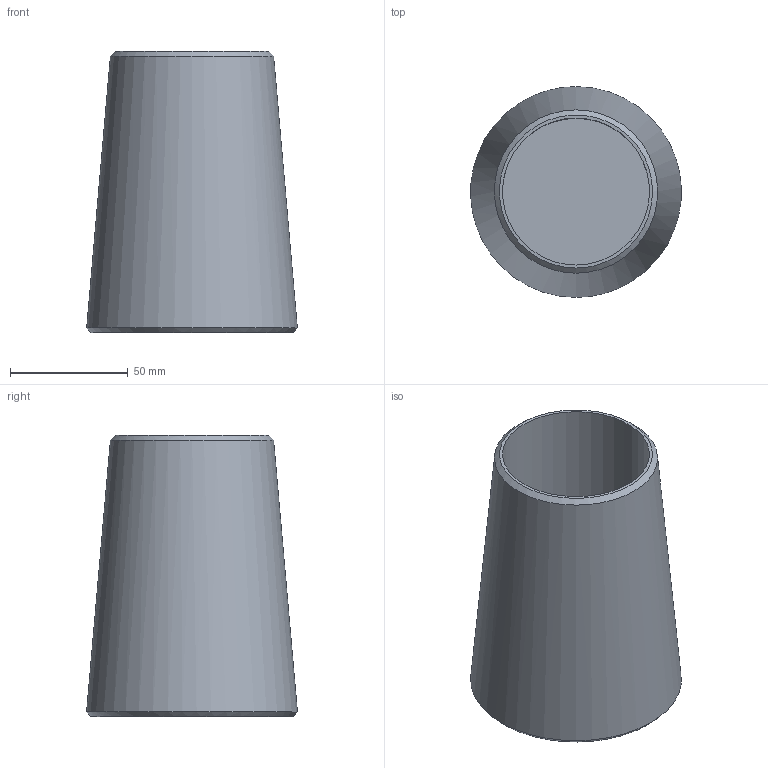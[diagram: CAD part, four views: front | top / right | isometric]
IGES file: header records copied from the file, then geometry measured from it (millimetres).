
Global section: file name: 520-060-KMU; native system: Autodesk Inventor 2016; preprocessor: unknown; author: BAYR; date: 20200618.123528; units: millimetre
Bounding box: 89.57 x 89.65 x 119.5 mm (x, y, z)
Volume: 321834.6 mm3; surface area: 57074.6 mm2
Topology: 1 solids, 1 shells, 7 faces, 14 edges, 10 vertices
Faces by surface type: bspline 7
